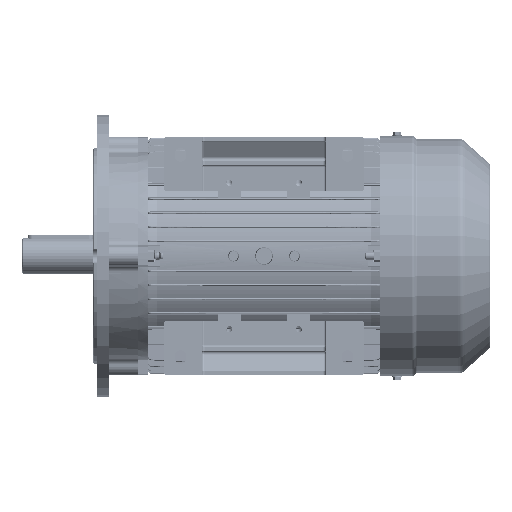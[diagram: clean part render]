
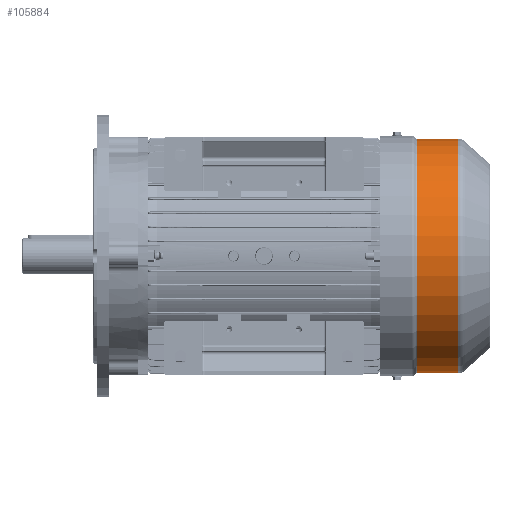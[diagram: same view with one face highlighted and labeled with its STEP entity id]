
A CAD part, front view. The second image highlights one B-rep face of the part: STEP entity #105884.
In plain terms, the highlighted cylindrical face has radius 125 mm (diameter 250 mm), a partial arc.
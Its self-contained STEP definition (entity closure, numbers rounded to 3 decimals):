
#1579 = CIRCLE ( 'NONE', #137850, 125. ) ;
#1729 = LINE ( 'NONE', #28664, #115206 ) ;
#3858 = DIRECTION ( 'NONE',  ( -1., 0., 0. ) ) ;
#5511 = DIRECTION ( 'NONE',  ( 0., 0., 1. ) ) ;
#13026 = EDGE_CURVE ( 'NONE', #138071, #154097, #1729, .T. ) ;
#17144 = CARTESIAN_POINT ( 'NONE',  ( -114., 0., 125. ) ) ;
#18777 = DIRECTION ( 'NONE',  ( -1., 0., 0. ) ) ;
#28664 = CARTESIAN_POINT ( 'NONE',  ( -114., 0., -125. ) ) ;
#34060 = ORIENTED_EDGE ( 'NONE', *, *, #13026, .F. ) ;
#35974 = EDGE_LOOP ( 'NONE', ( #34060, #64946, #64590, #147249 ) ) ;
#38844 = VERTEX_POINT ( 'NONE', #88274 ) ;
#46422 = EDGE_CURVE ( 'NONE', #38844, #153956, #85995, .T. ) ;
#50560 = CARTESIAN_POINT ( 'NONE',  ( -83.139, 0., -125. ) ) ;
#64590 = ORIENTED_EDGE ( 'NONE', *, *, #46422, .T. ) ;
#64946 = ORIENTED_EDGE ( 'NONE', *, *, #87333, .T. ) ;
#75241 = CARTESIAN_POINT ( 'NONE',  ( -83.139, 0., 125. ) ) ;
#78719 = CARTESIAN_POINT ( 'NONE',  ( -114., 0., 0. ) ) ;
#80952 = DIRECTION ( 'NONE',  ( -1., 0., 0. ) ) ;
#82950 = AXIS2_PLACEMENT_3D ( 'NONE', #78719, #3858, #116541 ) ;
#83558 = CARTESIAN_POINT ( 'NONE',  ( -39.028, 0., -125. ) ) ;
#84092 = CIRCLE ( 'NONE', #87094, 125. ) ;
#85995 = LINE ( 'NONE', #17144, #107545 ) ;
#87094 = AXIS2_PLACEMENT_3D ( 'NONE', #161424, #148354, #123782 ) ;
#87333 = EDGE_CURVE ( 'NONE', #138071, #38844, #1579, .T. ) ;
#88274 = CARTESIAN_POINT ( 'NONE',  ( -39.028, 0., 125. ) ) ;
#90707 = EDGE_CURVE ( 'NONE', #153956, #154097, #84092, .T. ) ;
#102642 = DIRECTION ( 'NONE',  ( -1., 0., 0. ) ) ;
#105884 = ADVANCED_FACE ( 'NONE', ( #105919 ), #154769, .T. ) ;
#105919 = FACE_OUTER_BOUND ( 'NONE', #35974, .T. ) ;
#106212 = CARTESIAN_POINT ( 'NONE',  ( -39.028, 0., 0. ) ) ;
#107545 = VECTOR ( 'NONE', #18777, 1000. ) ;
#115206 = VECTOR ( 'NONE', #102642, 1000. ) ;
#116541 = DIRECTION ( 'NONE',  ( 0., 0., 1. ) ) ;
#123782 = DIRECTION ( 'NONE',  ( 0., 0., -1. ) ) ;
#137850 = AXIS2_PLACEMENT_3D ( 'NONE', #106212, #80952, #5511 ) ;
#138071 = VERTEX_POINT ( 'NONE', #83558 ) ;
#147249 = ORIENTED_EDGE ( 'NONE', *, *, #90707, .T. ) ;
#148354 = DIRECTION ( 'NONE',  ( 1., 0., 0. ) ) ;
#153956 = VERTEX_POINT ( 'NONE', #75241 ) ;
#154097 = VERTEX_POINT ( 'NONE', #50560 ) ;
#154769 = CYLINDRICAL_SURFACE ( 'NONE', #82950, 125. ) ;
#161424 = CARTESIAN_POINT ( 'NONE',  ( -83.139, 0., 0. ) ) ;
